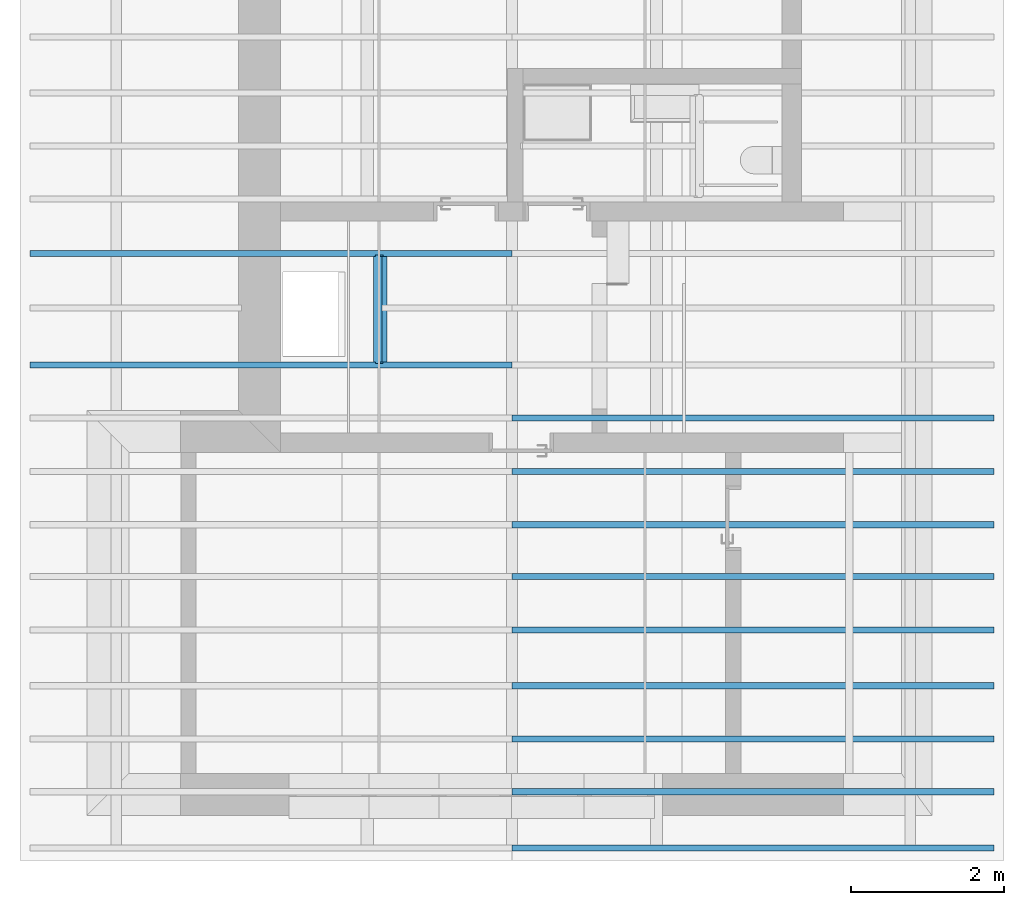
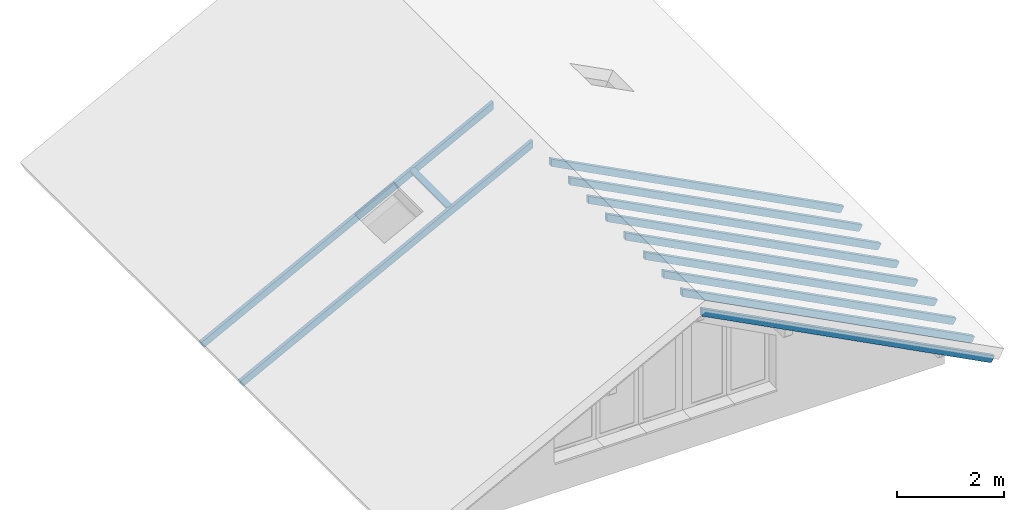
# One storey, part 10 of 18: 12 beams.
"""IFC2X3 building model written with IfcOpenShell, lengths in metres."""

from ifc_helpers import new_model, entity, si_unit, converted_unit, derived_unit, direction, frame, origin, place, context, subcontext, project, spatial, faceted_brep, material, type_object, element, save


model = new_model("IFC2X3")

# Units and contexts
model_context = context("Model", 3, precision=1e-05, world=origin(), true_north=direction((6.123233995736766e-17, 1.0)))
body_context = subcontext(model_context, "Body", "Model", "MODEL_VIEW")
ifc_project = project(units=[si_unit("LENGTHUNIT", "METRE"), si_unit("AREAUNIT", "SQUARE_METRE"), si_unit("VOLUMEUNIT", "CUBIC_METRE"), si_unit("POWERUNIT", "WATT"), derived_unit("USERDEFINED", [(si_unit("MASSUNIT", "GRAM", prefix="KILO"), 1), (si_unit("TIMEUNIT", "SECOND"), -3)]), derived_unit("THERMALRESISTANCEUNIT", [(si_unit("MASSUNIT", "GRAM", prefix="KILO"), -1), (si_unit("TIMEUNIT", "SECOND"), 3), (si_unit("THERMODYNAMICTEMPERATUREUNIT", "KELVIN"), 1)]), derived_unit("USERDEFINED", [(si_unit("MASSUNIT", "GRAM", prefix="KILO"), 1), (si_unit("TIMEUNIT", "SECOND"), -2), (si_unit("THERMODYNAMICTEMPERATUREUNIT", "KELVIN"), -1)]), derived_unit("THERMALTRANSMITTANCEUNIT", [(si_unit("MASSUNIT", "GRAM", prefix="KILO"), 1), (si_unit("TIMEUNIT", "SECOND"), -3), (si_unit("THERMODYNAMICTEMPERATUREUNIT", "KELVIN"), -1)]), converted_unit("PLANEANGLEUNIT", "DEGREE", entity("IfcPlaneAngleMeasure", 0.017453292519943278), si_unit("PLANEANGLEUNIT", "RADIAN"), dimensions=[0, 0, 0, 0, 0, 0, 0]), derived_unit("MOMENTOFINERTIAUNIT", [(si_unit("LENGTHUNIT", "METRE"), 4)])], contexts=[model_context])

# Site, building, storey
site_placement = place(None, origin())
site = spatial("IfcSite", under=ifc_project, at=site_placement, Name="Default", CompositionType="ELEMENT")
building_placement = place(site_placement, origin())
building = spatial("IfcBuilding", under=site, at=building_placement, CompositionType="ELEMENT")
storey_placement = place(building_placement, frame((0.0, 0.0, 5.4)))
storey = spatial("IfcBuildingStorey", under=building, at=storey_placement, Name="1. Obergeschoss", CompositionType="ELEMENT", Elevation=5.4)

# Beams
ifc_material = material(Name="Holz - Astfichte")
beam_type_1 = type_object("IfcBeamType", Name="Skelettbau Holz - Sparren mit Zierkopf:80 x 150", PredefinedType="BEAM")
beam_1_placement = place(storey_placement, frame((26.80257715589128, 21.154552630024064, 0.054540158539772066), z_axis=(-0.4617486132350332, 0.0, 0.887010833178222), x_axis=(0.887010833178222, 0.0, 0.4617486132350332)))
element("IfcBeam", 1, at=beam_1_placement, inside=storey, type_object=beam_type_1, material=ifc_material, Name="Skelettbau Holz - Sparren mit Zierkopf:80 x 150", ObjectType="Skelettbau Holz - Sparren mit Zierkopf:80 x 150", context=body_context, shape_type="Brep", body=[
    faceted_brep([(7.180713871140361, 0.08000000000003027, 0.10702535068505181), (5.255713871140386, 0.08000000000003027, 0.10702535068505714), (5.228790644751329, 0.08000000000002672, 0.10702535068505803), (5.232371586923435, 0.06000000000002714, 0.10702535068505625), (5.159056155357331, 0.06000000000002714, 0.10702535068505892), (5.162637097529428, 0.08000000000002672, 0.10702535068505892), (5.135713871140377, 0.08000000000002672, 0.10702535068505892), (0.05571387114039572, 0.08000000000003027, 0.1070253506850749), (0.05571387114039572, 0.0, 0.1070253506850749), (7.180713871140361, 0.0, 0.10702535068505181), (0.09571387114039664, 0.08000000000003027, -0.04297464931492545), (0.20571387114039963, 0.08000000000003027, -0.04297464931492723), (5.135713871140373, 0.08000000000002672, -0.04297464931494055), (5.255713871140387, 0.08000000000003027, -0.042974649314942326), (7.102628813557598, 0.08000000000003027, -0.04297464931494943), (7.102628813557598, 0.0, -0.04297464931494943), (0.20571387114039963, 0.0, -0.04297464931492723), (0.09571387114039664, 0.0, -0.04297464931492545), (0.08536110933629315, 0.08000000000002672, -0.04161168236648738), (0.07571387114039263, 0.08000000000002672, -0.03761566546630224), (0.06742959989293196, 0.08000000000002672, -0.031258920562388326), (0.06107285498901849, 0.08000000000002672, -0.02297464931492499), (0.05707683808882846, 0.08000000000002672, -0.013327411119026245), (0.05571387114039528, 0.08000000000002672, -0.0029746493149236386), (5.185865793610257, 0.08000000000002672, -0.02471113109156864), (5.186617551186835, 0.08000000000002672, -0.027128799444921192), (5.187952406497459, 0.08000000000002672, -0.02928017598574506), (5.189784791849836, 0.08000000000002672, -0.031027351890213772), (5.191997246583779, 0.08000000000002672, -0.032258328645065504), (5.194447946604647, 0.08000000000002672, -0.032894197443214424), (5.196979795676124, 0.08000000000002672, -0.03289419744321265), (5.199430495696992, 0.08000000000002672, -0.032258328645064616), (5.201642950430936, 0.08000000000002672, -0.031027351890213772), (5.203475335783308, 0.08000000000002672, -0.029280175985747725), (5.204810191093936, 0.08000000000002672, -0.027128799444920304), (5.205561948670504, 0.08000000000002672, -0.024711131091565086), (0.05571387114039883, 0.0, -0.002974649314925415), (0.05707683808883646, 0.0, -0.013327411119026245), (0.06107285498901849, 0.0, -0.02297464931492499), (0.06742959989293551, 0.0, -0.0312589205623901), (0.07571387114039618, 0.0, -0.037615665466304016), (0.0853611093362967, 0.0, -0.04161168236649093), (5.182392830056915, 0.060000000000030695, -0.025323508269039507), (5.209034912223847, 0.060000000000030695, -0.025323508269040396), (5.208018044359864, 0.060000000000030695, -0.028593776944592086), (5.206212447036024, 0.060000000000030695, -0.031503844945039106), (5.203733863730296, 0.060000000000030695, -0.03386716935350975), (5.200741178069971, 0.060000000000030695, -0.03553225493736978), (5.197426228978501, 0.060000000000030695, -0.03639236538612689), (5.194001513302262, 0.060000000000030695, -0.036392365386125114), (5.190686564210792, 0.060000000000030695, -0.035532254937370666), (5.187693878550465, 0.060000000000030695, -0.033867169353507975), (5.185215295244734, 0.060000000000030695, -0.03150384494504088), (5.183409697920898, 0.060000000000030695, -0.028593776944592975)], [[[0, 1, 2, 3, 4, 5, 6, 7, 8, 9]], [[10, 11, 12, 13, 14, 15, 16, 17]], [[1, 0, 14, 13, 12, 11, 10, 18, 19, 20, 21, 22, 23, 7, 6, 5, 24, 25, 26, 27, 28, 29, 30, 31, 32, 33, 34, 35, 2]], [[17, 16, 15, 9, 8, 36, 37, 38, 39, 40, 41]], [[36, 23, 22, 37]], [[37, 22, 21, 38]], [[38, 21, 20, 39]], [[40, 19, 18, 41]], [[41, 18, 10, 17]], [[40, 39, 20, 19]], [[8, 7, 23, 36]], [[9, 15, 14, 0]], [[42, 4, 3, 43, 44, 45, 46, 47, 48, 49, 50, 51, 52, 53]], [[25, 24, 42, 53]], [[26, 25, 53, 52]], [[50, 49, 29, 28]], [[51, 50, 28, 27]], [[52, 51, 27, 26]], [[49, 48, 30, 29]], [[47, 46, 32, 31]], [[48, 47, 31, 30]], [[44, 43, 35, 34]], [[45, 44, 34, 33]], [[46, 45, 33, 32]], [[42, 24, 5, 4]], [[3, 2, 35, 43]]]),
])
beam_2_placement = place(storey_placement, frame((26.80257715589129, 22.617052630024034, 0.05454015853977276), z_axis=(-0.4617486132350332, 0.0, 0.887010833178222), x_axis=(0.887010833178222, 0.0, 0.4617486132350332)))
element("IfcBeam", 2, at=beam_2_placement, inside=storey, type_object=beam_type_1, material=ifc_material, Name="Skelettbau Holz - Sparren mit Zierkopf:80 x 150", ObjectType="Skelettbau Holz - Sparren mit Zierkopf:80 x 150", context=body_context, shape_type="Brep", body=[
    faceted_brep([(7.180713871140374, 0.08000000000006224, 0.10702535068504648), (0.05571387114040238, 0.08000000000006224, 0.10702535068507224), (0.05571387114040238, 0.0, 0.10702535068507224), (5.135713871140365, 0.0, 0.10702535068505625), (5.1626370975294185, 0.0, 0.10702535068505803), (5.159056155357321, 0.02000000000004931, 0.10702535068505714), (5.232371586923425, 0.020000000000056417, 0.10702535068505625), (5.228790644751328, 0.0, 0.10702535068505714), (5.255713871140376, 0.0, 0.10702535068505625), (7.180713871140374, 0.0, 0.10702535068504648), (0.0957138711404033, 0.08000000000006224, -0.042974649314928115), (0.20571387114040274, 0.08000000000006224, -0.042974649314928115), (7.1026288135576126, 0.08000000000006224, -0.042974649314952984), (7.1026288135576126, 0.0, -0.042974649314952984), (5.255713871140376, 0.0, -0.042974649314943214), (5.135713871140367, 0.0, -0.042974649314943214), (0.20571387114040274, 0.0, -0.042974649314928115), (0.0957138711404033, 0.0, -0.042974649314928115), (0.055713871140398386, 0.08000000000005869, -0.002974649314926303), (0.0853611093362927, 0.08000000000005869, -0.04161168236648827), (0.07571387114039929, 0.08000000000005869, -0.037615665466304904), (0.06742959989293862, 0.08000000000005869, -0.031258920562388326), (0.0610728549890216, 0.08000000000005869, -0.022974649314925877), (0.05707683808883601, 0.08000000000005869, -0.013327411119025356), (5.205561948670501, 0.0, -0.02471113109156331), (5.204810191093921, 0.0, -0.02712879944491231), (5.203475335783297, 0.0, -0.02928017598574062), (5.201642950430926, 0.0, -0.031027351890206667), (5.199430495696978, 0.0, -0.03225832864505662), (5.196979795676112, 0.0, -0.03289419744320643), (5.194447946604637, 0.0, -0.032894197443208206), (5.191997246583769, 0.0, -0.0322583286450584), (5.189784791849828, 0.0, -0.03102735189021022), (5.187952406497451, 0.0, -0.029280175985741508), (5.186617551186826, 0.0, -0.02712879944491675), (5.18586579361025, 0.0, -0.024711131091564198), (0.05571387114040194, 0.0, -0.0029746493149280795), (0.05707683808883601, 0.0, -0.013327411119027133), (0.0610728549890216, 0.0, -0.022974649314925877), (0.06742959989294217, 0.0, -0.0312589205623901), (0.07571387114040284, 0.0, -0.037615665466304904), (0.08536110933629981, 0.0, -0.04161168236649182), (5.20903491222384, 0.020000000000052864, -0.02532350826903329), (5.182392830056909, 0.020000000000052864, -0.02532350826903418), (5.183409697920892, 0.020000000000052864, -0.028593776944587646), (5.185215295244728, 0.020000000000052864, -0.03150384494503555), (5.1876938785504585, 0.020000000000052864, -0.033867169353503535), (5.190686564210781, 0.020000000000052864, -0.03553225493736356), (5.194001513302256, 0.020000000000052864, -0.036392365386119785), (5.197426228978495, 0.020000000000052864, -0.03639236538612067), (5.200741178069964, 0.020000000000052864, -0.03553225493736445), (5.20373386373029, 0.020000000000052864, -0.03386716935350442), (5.206212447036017, 0.020000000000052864, -0.031503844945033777), (5.208018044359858, 0.020000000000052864, -0.02859377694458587)], [[[0, 1, 2, 3, 4, 5, 6, 7, 8, 9]], [[10, 11, 12, 13, 14, 15, 16, 17]], [[18, 1, 0, 12, 11, 10, 19, 20, 21, 22, 23]], [[16, 15, 14, 13, 9, 8, 7, 24, 25, 26, 27, 28, 29, 30, 31, 32, 33, 34, 35, 4, 3, 2, 36, 37, 38, 39, 40, 41, 17]], [[36, 18, 23, 37]], [[37, 23, 22, 38]], [[38, 22, 21, 39]], [[40, 20, 19, 41]], [[41, 19, 10, 17]], [[40, 39, 21, 20]], [[2, 1, 18, 36]], [[9, 13, 12, 0]], [[42, 6, 5, 43, 44, 45, 46, 47, 48, 49, 50, 51, 52, 53]], [[25, 24, 42, 53]], [[26, 25, 53, 52]], [[50, 49, 29, 28]], [[51, 50, 28, 27]], [[52, 51, 27, 26]], [[49, 48, 30, 29]], [[47, 46, 32, 31]], [[48, 47, 31, 30]], [[44, 43, 35, 34]], [[45, 44, 34, 33]], [[46, 45, 33, 32]], [[42, 24, 7, 6]], [[5, 4, 35, 43]]]),
])
beam_3_placement = place(storey_placement, frame((33.1225293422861, 20.462052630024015, 3.4651574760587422), z_axis=(0.46174861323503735, 0.0, 0.8870108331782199), x_axis=(-0.8870108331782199, 0.0, 0.46174861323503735)))
element("IfcBeam", 3, at=beam_3_placement, inside=storey, type_object=beam_type_1, material=ifc_material, Name="Skelettbau Holz - Sparren mit Zierkopf:80 x 150", ObjectType="Skelettbau Holz - Sparren mit Zierkopf:80 x 150", context=body_context, shape_type="Brep", body=[
    faceted_brep([(0.0, -0.08000000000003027, 0.0), (0.0, 0.0, 0.0), (-7.124999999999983, 0.0, 0.0), (-7.124999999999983, -0.08000000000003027, 0.0), (-7.084999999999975, -0.08000000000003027, -0.1499999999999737), (-7.084999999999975, 0.0, -0.1499999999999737), (-6.974999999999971, 0.0, -0.14999999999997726), (-0.07808505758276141, 0.0, -0.14999999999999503), (-0.07808505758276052, -0.08000000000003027, -0.14999999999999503), (-6.974999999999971, -0.08000000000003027, -0.14999999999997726), (-7.124999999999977, 0.0, -0.10999999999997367), (-7.095352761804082, 0.0, -0.14863703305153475), (-7.104999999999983, 0.0, -0.1446410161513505), (-7.11328427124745, 0.0, -0.13828427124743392), (-7.119641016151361, 0.0, -0.12999999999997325), (-7.1236370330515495, 0.0, -0.12035276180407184), (-7.124999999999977, -0.08000000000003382, -0.10999999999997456), (-7.123637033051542, -0.08000000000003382, -0.12035276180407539), (-7.119641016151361, -0.08000000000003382, -0.12999999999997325), (-7.113284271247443, -0.08000000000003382, -0.13828427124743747), (-7.104999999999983, -0.08000000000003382, -0.1446410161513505), (-7.095352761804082, -0.08000000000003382, -0.14863703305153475)], [[[0, 1, 2, 3]], [[4, 5, 6, 7, 8, 9]], [[10, 2, 1, 7, 6, 5, 11, 12, 13, 14, 15]], [[4, 9, 8, 0, 3, 16, 17, 18, 19, 20, 21]], [[16, 10, 15, 17]], [[17, 15, 14, 18]], [[18, 14, 13, 19]], [[20, 12, 11, 21]], [[21, 11, 5, 4]], [[20, 19, 13, 12]], [[3, 2, 10, 16]], [[0, 8, 7, 1]]]),
])
beam_4_placement = place(storey_placement, frame((33.1225293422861, 19.762052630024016, 3.4651574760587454), z_axis=(0.46174861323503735, 0.0, 0.8870108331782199), x_axis=(-0.8870108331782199, 0.0, 0.46174861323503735)))
element("IfcBeam", 4, at=beam_4_placement, inside=storey, type_object=beam_type_1, material=ifc_material, Name="Skelettbau Holz - Sparren mit Zierkopf:80 x 150", ObjectType="Skelettbau Holz - Sparren mit Zierkopf:80 x 150", context=body_context, shape_type="Brep", body=[
    faceted_brep([(0.0, -0.08000000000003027, 0.0), (0.0, 0.0, 0.0), (-7.124999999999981, 0.0, 0.0), (-7.124999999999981, -0.08000000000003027, 0.0), (-7.084999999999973, -0.08000000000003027, -0.14999999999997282), (-7.084999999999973, 0.0, -0.14999999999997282), (-6.9749999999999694, 0.0, -0.14999999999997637), (-0.07808505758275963, 0.0, -0.14999999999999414), (-0.07808505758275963, -0.08000000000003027, -0.14999999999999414), (-6.9749999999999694, -0.08000000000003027, -0.14999999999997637), (-7.124999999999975, 0.0, -0.10999999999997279), (-7.09535276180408, 0.0, -0.14863703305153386), (-7.104999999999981, 0.0, -0.1446410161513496), (-7.113284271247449, 0.0, -0.13828427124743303), (-7.119641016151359, 0.0, -0.12999999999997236), (-7.123637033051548, 0.0, -0.12035276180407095), (-7.124999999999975, -0.08000000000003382, -0.10999999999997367), (-7.123637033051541, -0.08000000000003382, -0.1203527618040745), (-7.119641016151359, -0.08000000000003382, -0.12999999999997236), (-7.113284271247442, -0.08000000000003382, -0.13828427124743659), (-7.104999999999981, -0.08000000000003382, -0.1446410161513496), (-7.09535276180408, -0.08000000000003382, -0.14863703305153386)], [[[0, 1, 2, 3]], [[4, 5, 6, 7, 8, 9]], [[10, 2, 1, 7, 6, 5, 11, 12, 13, 14, 15]], [[4, 9, 8, 0, 3, 16, 17, 18, 19, 20, 21]], [[16, 10, 15, 17]], [[17, 15, 14, 18]], [[18, 14, 13, 19]], [[20, 12, 11, 21]], [[21, 11, 5, 4]], [[20, 19, 13, 12]], [[3, 2, 10, 16]], [[0, 8, 7, 1]]]),
])
beam_5_placement = place(storey_placement, frame((33.1225293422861, 19.06205263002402, 3.4651574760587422), z_axis=(0.46174861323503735, 0.0, 0.8870108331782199), x_axis=(-0.8870108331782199, 0.0, 0.46174861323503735)))
element("IfcBeam", 5, at=beam_5_placement, inside=storey, type_object=beam_type_1, material=ifc_material, Name="Skelettbau Holz - Sparren mit Zierkopf:80 x 150", ObjectType="Skelettbau Holz - Sparren mit Zierkopf:80 x 150", context=body_context, shape_type="Brep", body=[
    faceted_brep([(0.0, -0.08000000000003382, 0.0), (0.0, 0.0, 0.0), (-7.124999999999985, 0.0, 0.0), (-7.124999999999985, -0.08000000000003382, 0.0), (-7.084999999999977, -0.08000000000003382, -0.1499999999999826), (-7.084999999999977, 0.0, -0.1499999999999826), (-6.974999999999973, 0.0, -0.14999999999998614), (-0.07808505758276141, 0.0, -0.1500000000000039), (-0.07808505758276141, -0.08000000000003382, -0.1500000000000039), (-6.974999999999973, -0.08000000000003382, -0.14999999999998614), (-7.124999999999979, 0.0, -0.10999999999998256), (-7.095352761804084, 0.0, -0.14863703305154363), (-7.104999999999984, 0.0, -0.14464101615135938), (-7.113284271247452, 0.0, -0.1382842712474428), (-7.119641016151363, 0.0, -0.12999999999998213), (-7.123637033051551, 0.0, -0.12035276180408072), (-7.124999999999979, -0.08000000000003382, -0.10999999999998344), (-7.123637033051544, -0.08000000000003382, -0.12035276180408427), (-7.119641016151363, -0.08000000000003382, -0.12999999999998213), (-7.113284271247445, -0.08000000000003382, -0.13828427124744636), (-7.104999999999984, -0.08000000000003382, -0.14464101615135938), (-7.095352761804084, -0.08000000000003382, -0.14863703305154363)], [[[0, 1, 2, 3]], [[4, 5, 6, 7, 8, 9]], [[10, 2, 1, 7, 6, 5, 11, 12, 13, 14, 15]], [[4, 9, 8, 0, 3, 16, 17, 18, 19, 20, 21]], [[16, 10, 15, 17]], [[17, 15, 14, 18]], [[18, 14, 13, 19]], [[20, 12, 11, 21]], [[21, 11, 5, 4]], [[20, 19, 13, 12]], [[3, 2, 10, 16]], [[0, 8, 7, 1]]]),
])
beam_6_placement = place(storey_placement, frame((33.12252934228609, 18.38205263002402, 3.465157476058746), z_axis=(0.46174861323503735, 0.0, 0.8870108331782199), x_axis=(-0.8870108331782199, 0.0, 0.46174861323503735)))
element("IfcBeam", 6, at=beam_6_placement, inside=storey, type_object=beam_type_1, material=ifc_material, Name="Skelettbau Holz - Sparren mit Zierkopf:80 x 150", ObjectType="Skelettbau Holz - Sparren mit Zierkopf:80 x 150", context=body_context, shape_type="Brep", body=[
    faceted_brep([(0.0, -0.08000000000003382, 0.0), (0.0, 0.0, 0.0), (-7.12499999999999, 0.0, 0.0), (-7.12499999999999, -0.08000000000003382, 0.0), (-7.084999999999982, -0.08000000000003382, -0.1499999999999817), (-7.084999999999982, 0.0, -0.14999999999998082), (-6.974999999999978, 0.0, -0.14999999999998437), (-0.07808505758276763, 0.0, -0.15000000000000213), (-0.07808505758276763, -0.08000000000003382, -0.15000000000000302), (-6.974999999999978, -0.08000000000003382, -0.14999999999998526), (-7.124999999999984, 0.0, -0.10999999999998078), (-7.095352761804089, 0.0, -0.14863703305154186), (-7.10499999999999, 0.0, -0.1446410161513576), (-7.1132842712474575, 0.0, -0.13828427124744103), (-7.119641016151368, 0.0, -0.12999999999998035), (-7.123637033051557, 0.0, -0.12035276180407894), (-7.124999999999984, -0.08000000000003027, -0.10999999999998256), (-7.1236370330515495, -0.08000000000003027, -0.12035276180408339), (-7.119641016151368, -0.08000000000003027, -0.12999999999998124), (-7.11328427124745, -0.08000000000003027, -0.13828427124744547), (-7.10499999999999, -0.08000000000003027, -0.1446410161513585), (-7.095352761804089, -0.08000000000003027, -0.14863703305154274)], [[[0, 1, 2, 3]], [[4, 5, 6, 7, 8, 9]], [[10, 2, 1, 7, 6, 5, 11, 12, 13, 14, 15]], [[4, 9, 8, 0, 3, 16, 17, 18, 19, 20, 21]], [[16, 10, 15, 17]], [[17, 15, 14, 18]], [[18, 14, 13, 19]], [[20, 12, 11, 21]], [[21, 11, 5, 4]], [[20, 19, 13, 12]], [[3, 2, 10, 16]], [[0, 8, 7, 1]]]),
])
beam_7_placement = place(storey_placement, frame((33.1225293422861, 17.682052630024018, 3.465157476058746), z_axis=(0.46174861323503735, 0.0, 0.8870108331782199), x_axis=(-0.8870108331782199, 0.0, 0.46174861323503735)))
element("IfcBeam", 7, at=beam_7_placement, inside=storey, type_object=beam_type_1, material=ifc_material, Name="Skelettbau Holz - Sparren mit Zierkopf:80 x 150", ObjectType="Skelettbau Holz - Sparren mit Zierkopf:80 x 150", context=body_context, shape_type="Brep", body=[
    faceted_brep([(0.0, -0.08000000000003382, 0.0), (0.0, 0.0, 0.0), (-7.124999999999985, 0.0, 0.0), (-7.124999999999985, -0.08000000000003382, 0.0), (-7.084999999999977, -0.08000000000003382, -0.14999999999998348), (-7.084999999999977, 0.0, -0.14999999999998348), (-6.974999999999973, 0.0, -0.14999999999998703), (-0.0780850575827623, 0.0, -0.1500000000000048), (-0.0780850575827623, -0.08000000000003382, -0.1500000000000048), (-6.974999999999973, -0.08000000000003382, -0.14999999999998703), (-7.124999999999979, 0.0, -0.10999999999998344), (-7.095352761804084, 0.0, -0.14863703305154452), (-7.104999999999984, 0.0, -0.14464101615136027), (-7.113284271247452, 0.0, -0.1382842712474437), (-7.119641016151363, 0.0, -0.12999999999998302), (-7.123637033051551, 0.0, -0.12035276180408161), (-7.124999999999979, -0.08000000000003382, -0.10999999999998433), (-7.123637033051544, -0.08000000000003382, -0.12035276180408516), (-7.119641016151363, -0.08000000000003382, -0.12999999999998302), (-7.113284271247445, -0.08000000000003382, -0.13828427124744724), (-7.104999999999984, -0.08000000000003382, -0.14464101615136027), (-7.095352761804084, -0.08000000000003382, -0.14863703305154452)], [[[0, 1, 2, 3]], [[4, 5, 6, 7, 8, 9]], [[10, 2, 1, 7, 6, 5, 11, 12, 13, 14, 15]], [[4, 9, 8, 0, 3, 16, 17, 18, 19, 20, 21]], [[16, 10, 15, 17]], [[17, 15, 14, 18]], [[18, 14, 13, 19]], [[20, 12, 11, 21]], [[21, 11, 5, 4]], [[20, 19, 13, 12]], [[3, 2, 10, 16]], [[0, 8, 7, 1]]]),
])
beam_8_placement = place(storey_placement, frame((33.1225293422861, 16.95250341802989, 3.4651574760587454), z_axis=(0.46174861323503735, 0.0, 0.8870108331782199), x_axis=(-0.8870108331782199, 0.0, 0.46174861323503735)))
element("IfcBeam", 8, at=beam_8_placement, inside=storey, type_object=beam_type_1, material=ifc_material, Name="Skelettbau Holz - Sparren mit Zierkopf:80 x 150", ObjectType="Skelettbau Holz - Sparren mit Zierkopf:80 x 150", context=body_context, shape_type="Brep", body=[
    faceted_brep([(0.0, -0.08000000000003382, 0.0), (0.0, 0.0, 0.0), (-7.124999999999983, 0.0, 0.0), (-7.124999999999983, -0.08000000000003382, 0.0), (-7.084999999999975, -0.08000000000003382, -0.1499999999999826), (-7.084999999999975, 0.0, -0.1499999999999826), (-6.974999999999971, 0.0, -0.14999999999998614), (-0.07808505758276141, 0.0, -0.1500000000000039), (-0.07808505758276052, -0.08000000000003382, -0.1500000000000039), (-6.974999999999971, -0.08000000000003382, -0.14999999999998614), (-7.124999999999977, 0.0, -0.10999999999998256), (-7.095352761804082, 0.0, -0.14863703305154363), (-7.104999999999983, 0.0, -0.14464101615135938), (-7.11328427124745, 0.0, -0.1382842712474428), (-7.119641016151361, 0.0, -0.12999999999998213), (-7.1236370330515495, 0.0, -0.12035276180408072), (-7.124999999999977, -0.08000000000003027, -0.10999999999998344), (-7.123637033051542, -0.08000000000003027, -0.12035276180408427), (-7.119641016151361, -0.08000000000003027, -0.12999999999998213), (-7.113284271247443, -0.08000000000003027, -0.13828427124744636), (-7.104999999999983, -0.08000000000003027, -0.14464101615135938), (-7.095352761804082, -0.08000000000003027, -0.14863703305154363)], [[[0, 1, 2, 3]], [[4, 5, 6, 7, 8, 9]], [[10, 2, 1, 7, 6, 5, 11, 12, 13, 14, 15]], [[4, 9, 8, 0, 3, 16, 17, 18, 19, 20, 21]], [[16, 10, 15, 17]], [[17, 15, 14, 18]], [[18, 14, 13, 19]], [[20, 12, 11, 21]], [[21, 11, 5, 4]], [[20, 19, 13, 12]], [[3, 2, 10, 16]], [[0, 8, 7, 1]]]),
])
beam_9_placement = place(storey_placement, frame((33.1225293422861, 16.252503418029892, 3.4651574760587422), z_axis=(0.46174861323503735, 0.0, 0.8870108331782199), x_axis=(-0.8870108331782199, 0.0, 0.46174861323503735)))
element("IfcBeam", 9, at=beam_9_placement, inside=storey, type_object=beam_type_1, material=ifc_material, Name="Skelettbau Holz - Sparren mit Zierkopf:80 x 150", ObjectType="Skelettbau Holz - Sparren mit Zierkopf:80 x 150", context=body_context, shape_type="Brep", body=[
    faceted_brep([(0.0, -0.08000000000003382, 0.0), (0.0, 0.0, 0.0), (-7.124999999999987, 0.0, 0.0), (-7.124999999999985, -0.08000000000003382, 0.0), (-7.084999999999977, -0.08000000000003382, -0.14999999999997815), (-7.084999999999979, 0.0, -0.14999999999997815), (-6.974999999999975, 0.0, -0.1499999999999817), (-0.07808505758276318, 0.0, -0.14999999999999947), (-0.07808505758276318, -0.08000000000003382, -0.14999999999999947), (-6.974999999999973, -0.08000000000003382, -0.1499999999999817), (-7.1249999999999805, 0.0, -0.10999999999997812), (-7.095352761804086, 0.0, -0.1486370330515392), (-7.104999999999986, 0.0, -0.14464101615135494), (-7.113284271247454, 0.0, -0.13828427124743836), (-7.119641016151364, 0.0, -0.1299999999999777), (-7.123637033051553, 0.0, -0.12035276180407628), (-7.124999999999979, -0.08000000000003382, -0.109999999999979), (-7.123637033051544, -0.08000000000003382, -0.12035276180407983), (-7.119641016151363, -0.08000000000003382, -0.1299999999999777), (-7.113284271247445, -0.08000000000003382, -0.13828427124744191), (-7.104999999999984, -0.08000000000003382, -0.14464101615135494), (-7.095352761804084, -0.08000000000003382, -0.1486370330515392)], [[[0, 1, 2, 3]], [[4, 5, 6, 7, 8, 9]], [[10, 2, 1, 7, 6, 5, 11, 12, 13, 14, 15]], [[4, 9, 8, 0, 3, 16, 17, 18, 19, 20, 21]], [[16, 10, 15, 17]], [[17, 15, 14, 18]], [[18, 14, 13, 19]], [[20, 12, 11, 21]], [[21, 11, 5, 4]], [[20, 19, 13, 12]], [[3, 2, 10, 16]], [[0, 8, 7, 1]]]),
])
beam_10_placement = place(storey_placement, frame((33.12252934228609, 15.56250341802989, 3.4651574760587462), z_axis=(0.46174861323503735, 0.0, 0.8870108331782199), x_axis=(-0.8870108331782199, 0.0, 0.46174861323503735)))
element("IfcBeam", 10, at=beam_10_placement, inside=storey, type_object=beam_type_1, material=ifc_material, Name="Skelettbau Holz - Sparren mit Zierkopf:80 x 150", ObjectType="Skelettbau Holz - Sparren mit Zierkopf:80 x 150", context=body_context, shape_type="Brep", body=[
    faceted_brep([(0.0, -0.08000000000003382, 0.0), (0.0, 0.0, 0.0), (-7.124999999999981, 0.0, 0.0), (-7.124999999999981, -0.08000000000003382, 0.0), (-7.084999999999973, -0.08000000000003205, -0.14999999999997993), (-7.084999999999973, 0.0, -0.14999999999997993), (-6.9749999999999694, 0.0, -0.14999999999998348), (-0.07808505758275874, 0.0, -0.15000000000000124), (-0.07808505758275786, -0.08000000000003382, -0.15000000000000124), (-6.9749999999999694, -0.08000000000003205, -0.14999999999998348), (-7.124999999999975, 0.0, -0.10999999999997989), (-7.09535276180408, 0.0, -0.14863703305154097), (-7.104999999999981, 0.0, -0.14464101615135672), (-7.113284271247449, 0.0, -0.13828427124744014), (-7.119641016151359, 0.0, -0.12999999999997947), (-7.123637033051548, 0.0, -0.12035276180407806), (-7.124999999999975, -0.08000000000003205, -0.10999999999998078), (-7.123637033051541, -0.08000000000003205, -0.12035276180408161), (-7.119641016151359, -0.08000000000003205, -0.12999999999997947), (-7.113284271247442, -0.08000000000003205, -0.1382842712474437), (-7.104999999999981, -0.08000000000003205, -0.14464101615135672), (-7.09535276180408, -0.08000000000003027, -0.14863703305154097)], [[[0, 1, 2, 3]], [[4, 5, 6, 7, 8, 9]], [[10, 2, 1, 7, 6, 5, 11, 12, 13, 14, 15]], [[4, 9, 8, 0, 3, 16, 17, 18, 19, 20, 21]], [[16, 10, 15, 17]], [[17, 15, 14, 18]], [[18, 14, 13, 19]], [[20, 12, 11, 21]], [[21, 11, 5, 4]], [[20, 19, 13, 12]], [[3, 2, 10, 16]], [[0, 8, 7, 1]]]),
])
beam_11_placement = place(storey_placement, frame((33.1225293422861, 14.827503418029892, 3.465157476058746), z_axis=(0.46174861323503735, 0.0, 0.8870108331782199), x_axis=(-0.8870108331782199, 0.0, 0.46174861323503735)))
element("IfcBeam", 11, at=beam_11_placement, inside=storey, type_object=beam_type_1, material=ifc_material, Name="Skelettbau Holz - Sparren mit Zierkopf:80 x 150", ObjectType="Skelettbau Holz - Sparren mit Zierkopf:80 x 150", context=body_context, shape_type="Brep", body=[
    faceted_brep([(0.0, -0.08000000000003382, 0.0), (0.0, 0.0, 0.0), (-7.124999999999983, 0.0, 0.0), (-7.124999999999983, -0.08000000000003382, 0.0), (-7.084999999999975, -0.08000000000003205, -0.14999999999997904), (-7.084999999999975, 0.0, -0.14999999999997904), (-6.974999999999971, 0.0, -0.1499999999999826), (-0.07808505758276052, 0.0, -0.15000000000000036), (-0.07808505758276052, -0.08000000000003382, -0.15000000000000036), (-6.974999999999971, -0.08000000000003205, -0.1499999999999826), (-7.124999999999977, 0.0, -0.109999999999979), (-7.095352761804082, 0.0, -0.14863703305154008), (-7.104999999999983, 0.0, -0.14464101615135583), (-7.11328427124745, 0.0, -0.13828427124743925), (-7.119641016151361, 0.0, -0.12999999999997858), (-7.1236370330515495, 0.0, -0.12035276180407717), (-7.124999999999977, -0.08000000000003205, -0.10999999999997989), (-7.123637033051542, -0.08000000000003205, -0.12035276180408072), (-7.119641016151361, -0.08000000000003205, -0.12999999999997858), (-7.113284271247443, -0.08000000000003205, -0.1382842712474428), (-7.104999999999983, -0.08000000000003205, -0.14464101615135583), (-7.095352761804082, -0.08000000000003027, -0.14863703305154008)], [[[0, 1, 2, 3]], [[4, 5, 6, 7, 8, 9]], [[10, 2, 1, 7, 6, 5, 11, 12, 13, 14, 15]], [[4, 9, 8, 0, 3, 16, 17, 18, 19, 20, 21]], [[16, 10, 15, 17]], [[17, 15, 14, 18]], [[18, 14, 13, 19]], [[20, 12, 11, 21]], [[21, 11, 5, 4]], [[20, 19, 13, 12]], [[3, 2, 10, 16]], [[0, 8, 7, 1]]]),
])
beam_type_2 = type_object("IfcBeamType", Name="Skelettbau Holz - Riegel mit Schwalbenschwanz:120 x 150", PredefinedType="BEAM")
beam_12_placement = place(storey_placement, frame((31.308592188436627, 21.214552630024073, 2.576291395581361), z_axis=(0.0, 0.0, 1.0), x_axis=(0.0, -1.0, 0.0)))
element("IfcBeam", 12, at=beam_12_placement, inside=storey, type_object=beam_type_2, material=ifc_material, Name="Skelettbau Holz - Riegel mit Schwalbenschwanz:120 x 150", ObjectType="Skelettbau Holz - Riegel mit Schwalbenschwanz:120 x 150", context=body_context, shape_type="Brep", body=[
    faceted_brep([(-0.020000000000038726, 0.08256010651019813, -0.012431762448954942), (-0.0200000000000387, 0.10644129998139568, 0.0), (-1.4024999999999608, 0.10644129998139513, 0.0), (-1.4024999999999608, 0.08256010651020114, -0.01243176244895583), (-1.4224999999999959, 0.08573644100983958, -0.010778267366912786), (-1.422499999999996, 0.020704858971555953, -0.04463156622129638), (-1.402499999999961, 0.023881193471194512, -0.04297807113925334), (-1.402499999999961, 0.0, -0.05540983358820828), (-0.020000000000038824, 0.0, -0.05540983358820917), (-0.020000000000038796, 0.023881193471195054, -0.042978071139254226), (0.0, 0.02070485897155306, -0.04463156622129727), (0.0, 0.08573644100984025, -0.010778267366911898), (-1.4024999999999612, 0.06926229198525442, -0.1884614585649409), (-1.4024999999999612, 0.17570359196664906, -0.13305162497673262), (-0.020000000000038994, 0.17570359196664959, -0.13305162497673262), (-0.02000000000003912, 0.06926229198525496, -0.1884614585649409), (-1.4224999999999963, 0.10251664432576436, -0.15125076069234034), (-1.4224999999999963, 0.1261484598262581, -0.13894881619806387), (-1.4224999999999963, 0.12675652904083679, -0.14231911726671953), (-1.4224999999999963, 0.12649866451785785, -0.14573411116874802), (-1.4224999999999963, 0.1253913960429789, -0.148974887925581), (-1.4224999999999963, 0.1235057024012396, -0.15183370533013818), (-1.4224999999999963, 0.12096246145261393, -0.15412730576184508), (-1.4224999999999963, 0.1179247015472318, -0.15570866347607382), (-1.4224999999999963, 0.11458715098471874, -0.15647640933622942), (-1.4224999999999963, 0.11116375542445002, -0.1563813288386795), (-1.4224999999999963, 0.10787396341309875, -0.15542951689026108), (-1.4224999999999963, 0.10492865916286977, -0.15368198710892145), (0.0, 0.12614845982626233, -0.13894881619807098), (0.0, 0.10251664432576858, -0.15125076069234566), (0.0, 0.10492865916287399, -0.15368198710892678), (0.0, 0.10787396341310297, -0.1554295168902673), (0.0, 0.11116375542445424, -0.15638132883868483), (0.0, 0.11458715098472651, -0.15647640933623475), (0.0, 0.11792470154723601, -0.15570866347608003), (0.0, 0.12096246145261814, -0.1541273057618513), (0.0, 0.12350570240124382, -0.1518337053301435), (0.0, 0.1253913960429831, -0.14897488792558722), (0.0, 0.12649866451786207, -0.14573411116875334), (0.0, 0.126756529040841, -0.14231911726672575), (-0.020000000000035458, 0.12278513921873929, -0.14000926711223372), (-0.02000000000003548, 0.12135520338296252, -0.14887061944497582), (-0.020000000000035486, 0.11339340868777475, -0.15301526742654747), (-0.02000000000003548, 0.10531443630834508, -0.14910393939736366), (-1.4024999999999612, 0.10531443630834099, -0.14910393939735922), (-1.4024999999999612, 0.11339340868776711, -0.15301526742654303), (-1.4024999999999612, 0.12135520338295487, -0.1488706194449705), (-1.4024999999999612, 0.1227851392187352, -0.14000926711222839)], [[[0, 1, 2, 3, 4, 5, 6, 7, 8, 9, 10, 11]], [[12, 13, 14, 15]], [[2, 1, 14, 13]], [[16, 5, 4, 17, 18, 19, 20, 21, 22, 23, 24, 25, 26, 27]], [[8, 7, 12, 15]], [[28, 11, 10, 29, 30, 31, 32, 33, 34, 35, 36, 37, 38, 39]], [[40, 41, 42, 43, 9, 8, 15, 14, 1, 0]], [[29, 43, 30]], [[31, 43, 42]], [[43, 31, 30]], [[32, 31, 42]], [[34, 33, 42]], [[32, 42, 33]], [[42, 41, 35, 34]], [[36, 35, 41]], [[36, 41, 37]], [[38, 41, 40]], [[37, 41, 38]], [[39, 38, 40]], [[28, 39, 40]], [[9, 43, 29, 10]], [[28, 40, 0, 11]], [[44, 45, 46, 47, 3, 2, 13, 12, 7, 6]], [[17, 47, 18]], [[19, 47, 46]], [[47, 19, 18]], [[20, 19, 46]], [[22, 21, 46]], [[20, 46, 21]], [[46, 45, 23, 22]], [[24, 23, 45]], [[24, 45, 25]], [[26, 45, 44]], [[25, 45, 26]], [[27, 26, 44]], [[16, 27, 44]], [[3, 47, 17, 4]], [[16, 44, 6, 5]]]),
])

save(model, "model.ifc")
